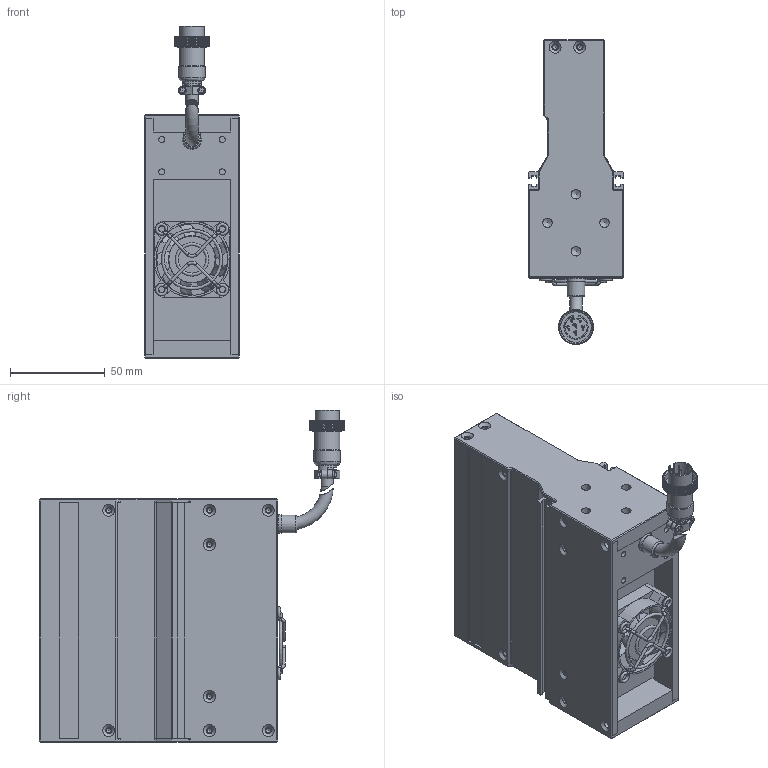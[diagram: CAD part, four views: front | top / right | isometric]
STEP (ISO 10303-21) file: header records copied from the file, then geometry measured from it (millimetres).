
FILE_DESCRIPTION (( 'STEP AP203' ), '1' );
FILE_NAME ('OPT-LSSC128-R-V3.1尨砩芞.STEP', '2025-01-23T08:42:23', ( 'USER' ), ( '' ), 'SwSTEP 2.0', 'SolidWorks 2016', '' );
FILE_SCHEMA (( 'CONFIG_CONTROL_DESIGN' ));
Length unit declared in the file: millimetre
Products named in the file (2): OPT-LSSC128-R-V3.1尨砩芞
Bounding box: 50 x 160.65 x 174.83 mm (x, y, z)
Volume: 500100.1 mm3; surface area: 115331.9 mm2
Topology: 9 solids, 17 shells, 3630 faces, 8049 edges, 4501 vertices
Faces by surface type: bspline 2086, cylinder 711, plane 707, torus 63, cone 63
Full cylindrical faces by diameter (mm): 0.95 x6, 1.6 x4, 2 x5, 2.5 x20, 3.2 x8, 3.4 x22, 4 x4, 5 x8, 6.2 x4, 6.4 x3, 7.5 x1, 8.6 x1, 9.3 x1, 9.8 x1, 10 x1, 13.2 x1, 14 x1, 16.1 x1, 24.8 x1, 38 x1
Entity records: 122220 total; most frequent: CARTESIAN_POINT 61581, ORIENTED_EDGE 15616, EDGE_CURVE 7808, DIRECTION 5972, B_SPLINE_CURVE_WITH_KNOTS 5449, VERTEX_POINT 4441, EDGE_LOOP 3893, FACE_OUTER_BOUND 3750
